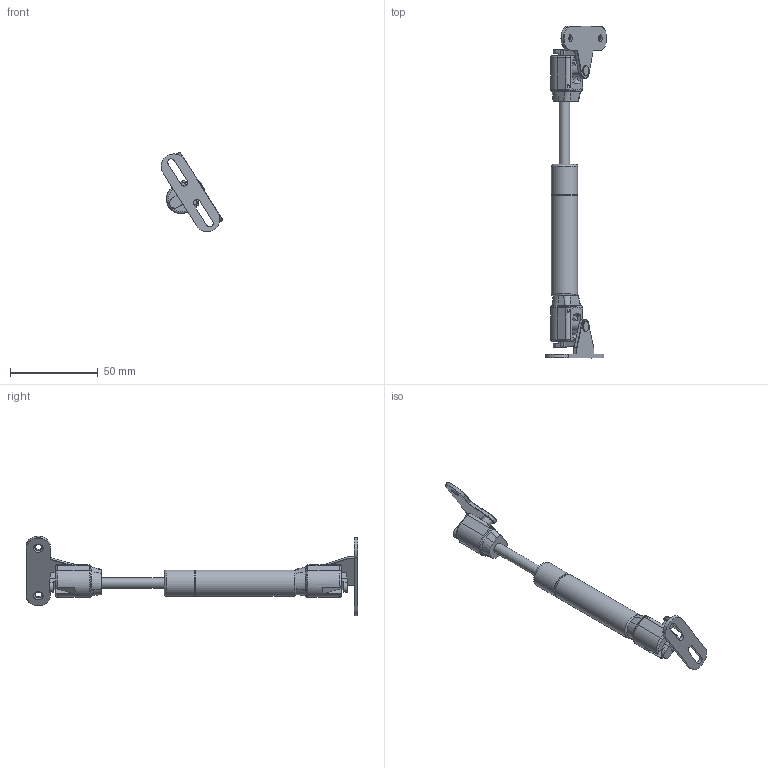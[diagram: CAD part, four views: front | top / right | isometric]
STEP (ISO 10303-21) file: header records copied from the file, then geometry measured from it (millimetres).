
FILE_DESCRIPTION(/* description */ (''),/* implementation_level */ '2;1');
FILE_NAME(/* name */ 'D:\DB\GB-150\DR_GB-150.stp',/* time_stamp */ '2018-02-27T11:36:52+09:00',/* author */ ('user'),/* organization */ (''),/* preprocessor_version */ 'ST-DEVELOPER v15.6',/* originating_system */ 'Autodesk Inventor 2015',/* authorisation */ '');
FILE_SCHEMA (('AUTOMOTIVE_DESIGN { 1 0 10303 214 3 1 1 }'));
Length unit declared in the file: millimetre
Products named in the file (5): DR_BRAKET_R; DR_GB-150; DR_SOCAT; DR_BRAKET_F
Bounding box: 35.08 x 189.5 x 45.48 mm (x, y, z)
Volume: 28160.5 mm3; surface area: 14705.7 mm2
Topology: 6 solids, 6 shells, 246 faces, 585 edges, 362 vertices
Faces by surface type: plane 105, cylinder 69, bspline 48, torus 16, sphere 6, cone 2
Full cylindrical faces by diameter (mm): 4 x2, 4.917 x2, 6 x7, 12 x1, 14 x1, 15 x2
Entity records: 5237 total; most frequent: CARTESIAN_POINT 1469, DIRECTION 773, ORIENTED_EDGE 714, EDGE_CURVE 357, AXIS2_PLACEMENT_3D 296, VERTEX_POINT 232, EDGE_LOOP 205, LINE 181
